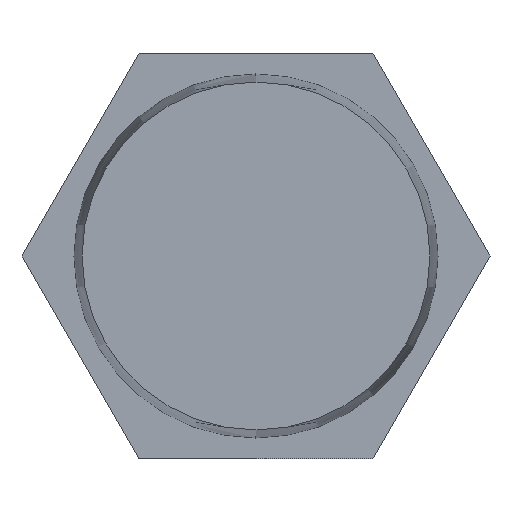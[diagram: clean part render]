
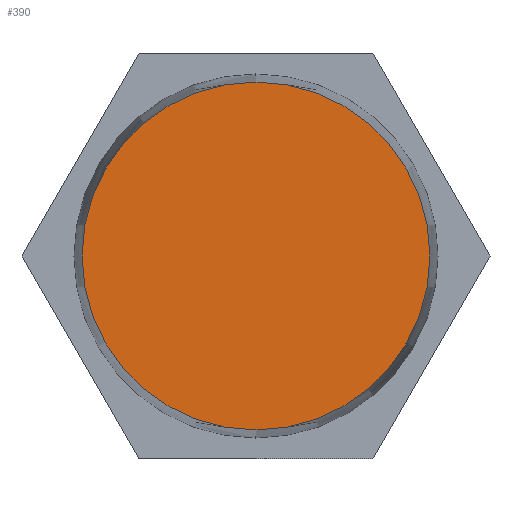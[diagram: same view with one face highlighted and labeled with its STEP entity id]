
A CAD part, front view. The second image highlights one B-rep face of the part: STEP entity #390.
In plain terms, the highlighted planar face has unit normal (0, -1, 0).
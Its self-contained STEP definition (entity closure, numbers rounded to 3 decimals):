
#55 = DIRECTION ( 'NONE',  ( 0., 0., 1. ) ) ;
#123 = VERTEX_POINT ( 'NONE', #467 ) ;
#151 = FACE_OUTER_BOUND ( 'NONE', #603, .T. ) ;
#166 = ORIENTED_EDGE ( 'NONE', *, *, #853, .F. ) ;
#236 = AXIS2_PLACEMENT_3D ( 'NONE', #337, #558, #549 ) ;
#288 = DIRECTION ( 'NONE',  ( 0., 1., 0. ) ) ;
#289 = CIRCLE ( 'NONE', #236, 8.153 ) ;
#337 = CARTESIAN_POINT ( 'NONE',  ( 0., -5.1, 0. ) ) ;
#373 = PLANE ( 'NONE',  #413 ) ;
#381 = CARTESIAN_POINT ( 'NONE',  ( 0., -5.1, 8.153 ) ) ;
#390 = ADVANCED_FACE ( 'NONE', ( #151 ), #373, .F. ) ;
#410 = VERTEX_POINT ( 'NONE', #381 ) ;
#413 = AXIS2_PLACEMENT_3D ( 'NONE', #665, #894, #746 ) ;
#432 = CARTESIAN_POINT ( 'NONE',  ( 0., -5.1, 0. ) ) ;
#467 = CARTESIAN_POINT ( 'NONE',  ( 0., -5.1, -8.153 ) ) ;
#486 = AXIS2_PLACEMENT_3D ( 'NONE', #432, #288, #55 ) ;
#549 = DIRECTION ( 'NONE',  ( 0., 0., 1. ) ) ;
#558 = DIRECTION ( 'NONE',  ( 0., 1., 0. ) ) ;
#603 = EDGE_LOOP ( 'NONE', ( #166, #850 ) ) ;
#665 = CARTESIAN_POINT ( 'NONE',  ( 0., -5.1, 0. ) ) ;
#734 = EDGE_CURVE ( 'NONE', #123, #410, #777, .T. ) ;
#746 = DIRECTION ( 'NONE',  ( 0., 0., 1. ) ) ;
#777 = CIRCLE ( 'NONE', #486, 8.153 ) ;
#850 = ORIENTED_EDGE ( 'NONE', *, *, #734, .F. ) ;
#853 = EDGE_CURVE ( 'NONE', #410, #123, #289, .T. ) ;
#894 = DIRECTION ( 'NONE',  ( 0., 1., 0. ) ) ;
